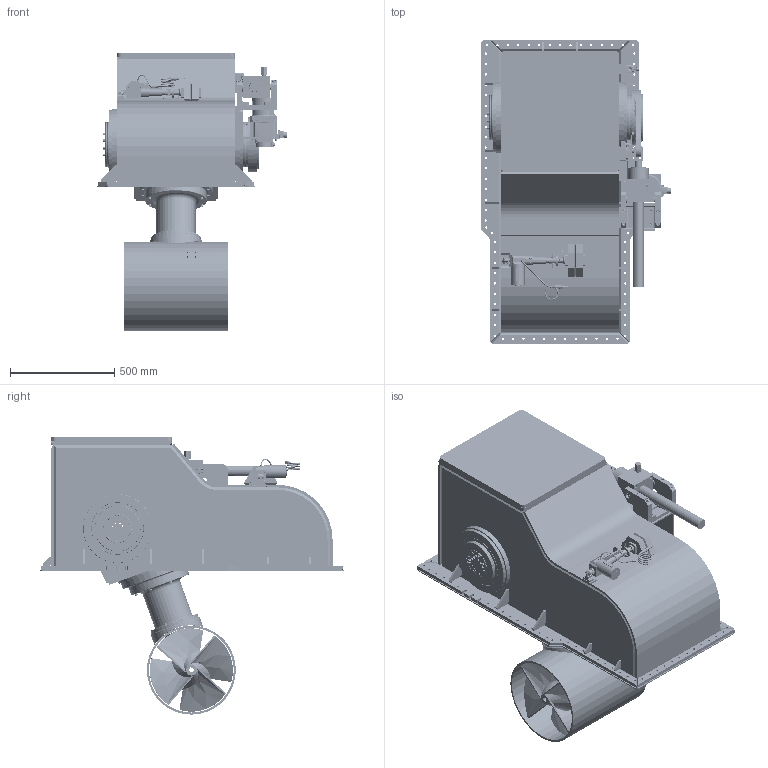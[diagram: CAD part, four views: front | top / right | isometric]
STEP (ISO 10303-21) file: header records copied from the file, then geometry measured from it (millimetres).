
FILE_DESCRIPTION(/* description */ (''),/* implementation_level */ '2;1');
FILE_NAME(/* name */ 'Q:\THRUSTERS\THRUSTER SALES & SUPPORT DOCS\THRUSTER Sales\E-S\E-0400-S\E-0400-S DEPLOYED.stp',/* time_stamp */ '2021-01-28T13:14:12+00:00',/* author */ ('Barney.Webborn'),/* organization */ (''),/* preprocessor_version */ 'ST-DEVELOPER v17.2',/* originating_system */ 'Autodesk Inventor 2019',/* authorisation */ '');
FILE_SCHEMA (('AUTOMOTIVE_DESIGN { 1 0 10303 214 3 1 1 }'));
Products named in the file (1): E-0400-S_Shrinkwrap_1
Bounding box: 913.99 x 1457 x 1328.75 mm (x, y, z)
Volume: 92908592.8 mm3; surface area: 13284615.9 mm2
Topology: 16 solids, 650 shells, 4769 faces, 14267 edges, 10436 vertices
Faces by surface type: plane 2688, cylinder 1196, bspline 453, cone 234, torus 172, sphere 26
Full cylindrical faces by diameter (mm): 3 x6, 4 x8, 5 x1, 5.5 x8, 5.6 x4, 5.9 x12, 6 x12, 7 x8, 7.2 x2, 7.6 x8, 8 x21, 8.5 x8, 9.2 x8, 10 x10, 10.3 x28, 10.5 x12, 10.8 x6, 11 x182, 11.5 x8, 11.8 x3, 12 x3, 12.3 x1, 13 x9, 14.5 x7, 14.95 x2, 15.3 x1, 16 x18, 16.467 x1, 16.6 x1, 17 x24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
Entity records: 188441 total; most frequent: CARTESIAN_POINT 55390, DIRECTION 25718, ORIENTED_EDGE 25248, EDGE_CURVE 14198, VERTEX_POINT 10436, AXIS2_PLACEMENT_3D 8675, LINE 8368, VECTOR 8368
